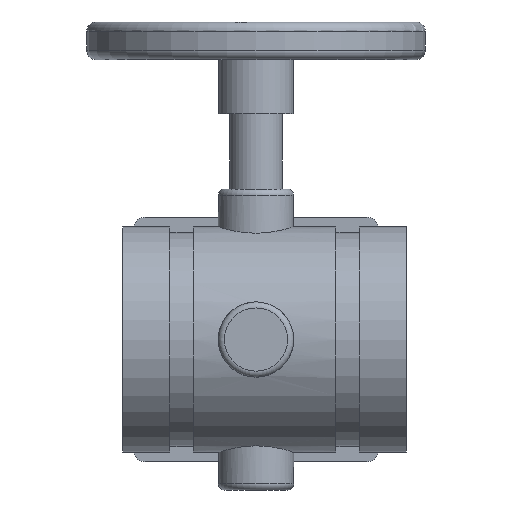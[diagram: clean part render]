
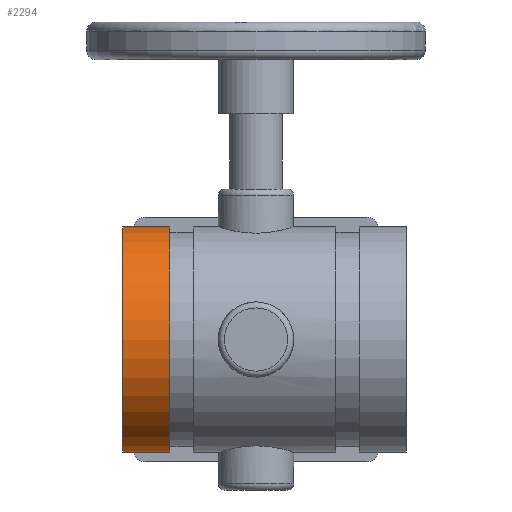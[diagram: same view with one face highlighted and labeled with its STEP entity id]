
A CAD part, front view. The second image highlights one B-rep face of the part: STEP entity #2294.
In plain terms, the highlighted cylindrical face has radius 38.1 mm (diameter 76.2 mm), a full revolution.
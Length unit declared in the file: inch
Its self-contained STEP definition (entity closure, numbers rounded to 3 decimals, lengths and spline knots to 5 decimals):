
#75=CYLINDRICAL_SURFACE('',#2493,1.5);
#169=CIRCLE('',#2494,1.5);
#170=CIRCLE('',#2495,1.5);
#171=CIRCLE('',#2496,1.5);
#172=CIRCLE('',#2497,1.5);
#346=FACE_OUTER_BOUND('',#472,.T.);
#472=EDGE_LOOP('',(#1842,#1843,#1844,#1845,#1846,#1847));
#660=LINE('',#4201,#839);
#839=VECTOR('',#3021,1.5);
#1034=VERTEX_POINT('',#4196);
#1035=VERTEX_POINT('',#4197);
#1036=VERTEX_POINT('',#4200);
#1037=VERTEX_POINT('',#4202);
#1326=EDGE_CURVE('',#1034,#1035,#169,.T.);
#1327=EDGE_CURVE('',#1035,#1034,#170,.T.);
#1328=EDGE_CURVE('',#1035,#1036,#660,.T.);
#1329=EDGE_CURVE('',#1036,#1037,#171,.T.);
#1330=EDGE_CURVE('',#1037,#1036,#172,.T.);
#1842=ORIENTED_EDGE('',*,*,#1326,.F.);
#1843=ORIENTED_EDGE('',*,*,#1327,.F.);
#1844=ORIENTED_EDGE('',*,*,#1328,.T.);
#1845=ORIENTED_EDGE('',*,*,#1329,.T.);
#1846=ORIENTED_EDGE('',*,*,#1330,.T.);
#1847=ORIENTED_EDGE('',*,*,#1328,.F.);
#2294=ADVANCED_FACE('',(#346),#75,.T.);
#2493=AXIS2_PLACEMENT_3D('',#4195,#3015,#3016);
#2494=AXIS2_PLACEMENT_3D('',#4198,#3017,#3018);
#2495=AXIS2_PLACEMENT_3D('',#4199,#3019,#3020);
#2496=AXIS2_PLACEMENT_3D('',#4203,#3022,#3023);
#2497=AXIS2_PLACEMENT_3D('',#4204,#3024,#3025);
#3015=DIRECTION('center_axis',(1.,0.,0.));
#3016=DIRECTION('ref_axis',(0.,1.,0.));
#3017=DIRECTION('center_axis',(1.,0.,0.));
#3018=DIRECTION('ref_axis',(0.,0.,1.));
#3019=DIRECTION('center_axis',(1.,0.,0.));
#3020=DIRECTION('ref_axis',(0.,0.,1.));
#3021=DIRECTION('',(-1.,0.,0.));
#3022=DIRECTION('center_axis',(1.,0.,0.));
#3023=DIRECTION('ref_axis',(0.,0.,1.));
#3024=DIRECTION('center_axis',(1.,0.,0.));
#3025=DIRECTION('ref_axis',(0.,0.,1.));
#4195=CARTESIAN_POINT('Origin',(-1.5725,0.,0.));
#4196=CARTESIAN_POINT('',(-1.26,1.5,0.));
#4197=CARTESIAN_POINT('',(-1.26,-1.5,0.));
#4198=CARTESIAN_POINT('Origin',(-1.26,0.,0.));
#4199=CARTESIAN_POINT('Origin',(-1.26,0.,0.));
#4200=CARTESIAN_POINT('',(-1.885,-1.5,0.));
#4201=CARTESIAN_POINT('',(-1.5725,-1.5,0.));
#4202=CARTESIAN_POINT('',(-1.885,1.5,0.));
#4203=CARTESIAN_POINT('Origin',(-1.885,0.,0.));
#4204=CARTESIAN_POINT('Origin',(-1.885,0.,0.));
